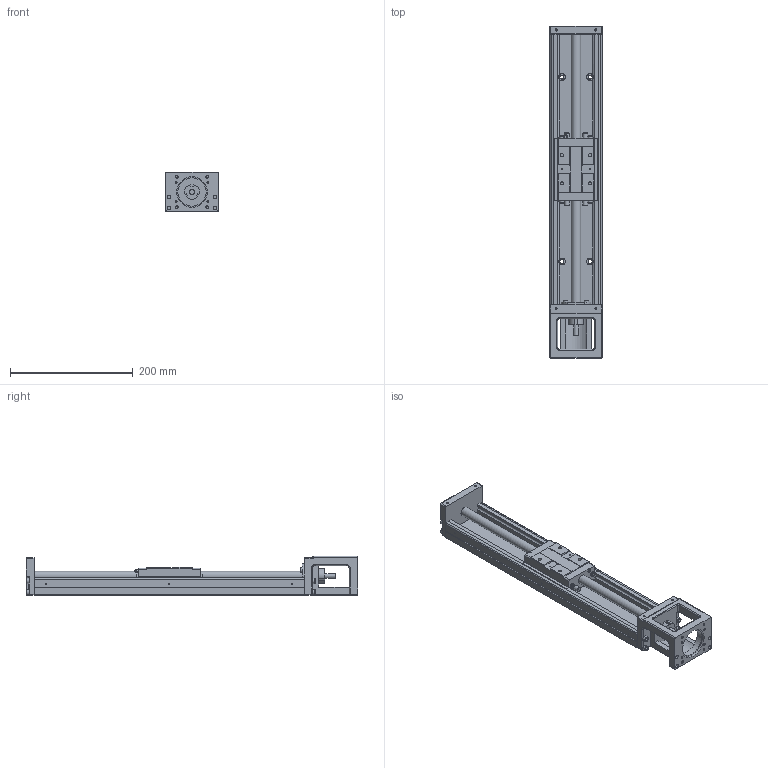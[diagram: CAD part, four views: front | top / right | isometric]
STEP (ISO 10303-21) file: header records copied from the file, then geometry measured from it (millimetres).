
FILE_DESCRIPTION(/* description */ (''),/* implementation_level */ '2;1');
FILE_NAME(/* name */ 'FKL80E440 05(10.16)C7.stp',/* time_stamp */ '2018-12-26T09:44:43+08:00',/* author */ (''),/* organization */ (''),/* preprocessor_version */ 'ST-DEVELOPER v16',/* originating_system */ 'SIEMENS PLM Software NX 10.0',/* authorisation */ '');
FILE_SCHEMA (('AUTOMOTIVE_DESIGN { 1 0 10303 214 3 1 1 1 }'));
Length unit declared in the file: millimetre
Products named in the file (3): 滑块.KK86-A1; 轨道.KK86-440; FKL80E440 05(10.16)C7
Assembly tree (2 placements, depth 2):
  FKL80E440 05(10.16)C7
    轨道.KK86-440
    滑块.KK86-A1
Bounding box: 86 x 540 x 64 mm (x, y, z)
Volume: 1065664.2 mm3; surface area: 230637.2 mm2
Topology: 2 solids, 2 shells, 504 faces, 1285 edges, 842 vertices
Faces by surface type: plane 297, cylinder 161, torus 20, cone 17, sphere 9
Full cylindrical faces by diameter (mm): 2.05 x6, 2.15 x2, 3.3 x9, 4.2 x4, 4.5 x4, 5 x4, 5.5 x4, 6.5 x2, 6.6 x8, 7.5 x8, 8 x5, 8.5 x8, 11 x8, 15 x2, 19 x1, 46 x1, 50 x1
Entity records: 14594 total; most frequent: CARTESIAN_POINT 2545, DIRECTION 2465, ORIENTED_EDGE 2214, EDGE_CURVE 1107, AXIS2_PLACEMENT_3D 872, VERTEX_POINT 767, LINE 721, VECTOR 721
